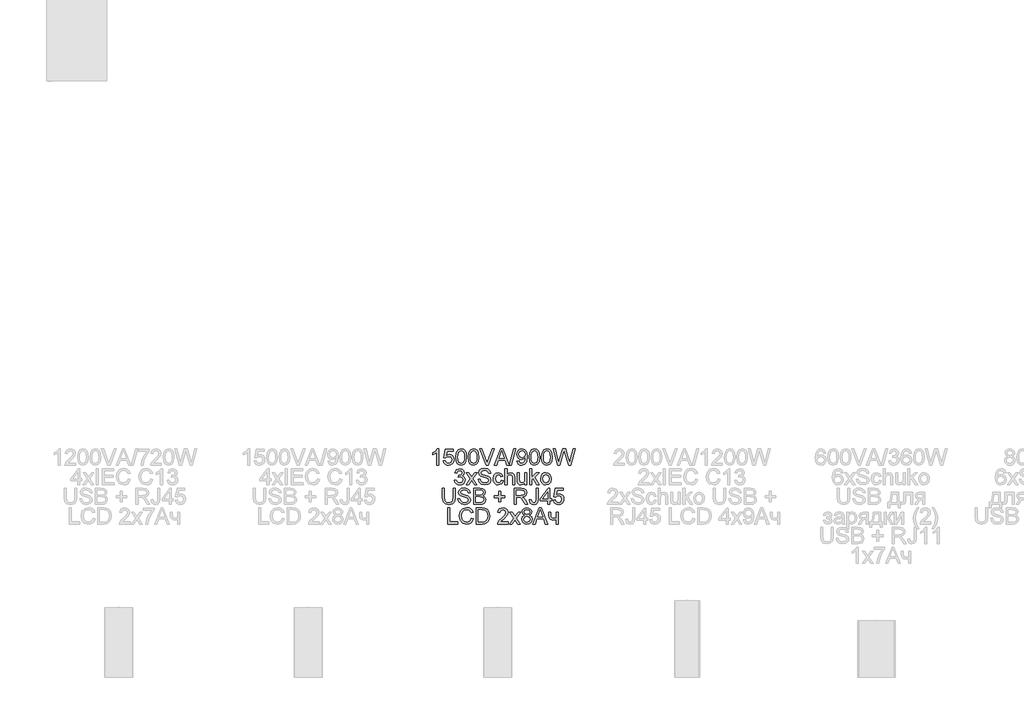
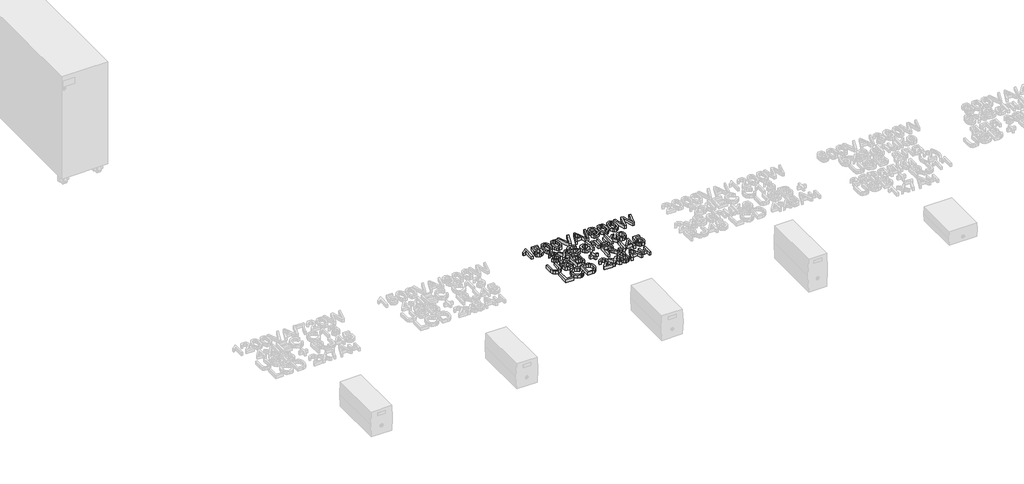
# One storey, part 43 of 74: 1 proxy.
"""IFC4 building model written with IfcOpenShell, lengths in millimetres."""

from ifc_helpers import new_model, si_unit, origin, origin_with_axes, place, context, project, spatial, polyline, outline, extrude, element, save

model = new_model("IFC4")

# Units and contexts
model_context = context("Model", 3, world=origin())
ifc_project = project(units=[si_unit("LENGTHUNIT", "METRE", prefix="MILLI")], contexts=[model_context])

# Site, building, storey
site = spatial("IfcSite", under=ifc_project)
building = spatial("IfcBuilding", under=site)
storey = spatial("IfcBuildingStorey", under=building, Name="Этаж 01", Elevation=0.0)

# Proxy
placement = place(None, origin())
element("IfcBuildingElementProxy", 1, Name="80 мм Arial", ObjectType="80 мм Arial", at=placement, inside=storey, context=model_context, shape_type="SweptSolid", body=[
    extrude(outline(polyline([(7651.7614359, -11026.633326), (7641.7158049, -11026.633326), (7641.7158049, -10964.0050951), (7632.1999239, -10970.783934), (7621.6245428, -10975.8558004), (7621.6245428, -10966.3595399), (7636.3496328, -10956.9613812), (7645.2867128, -10946.2682778), (7651.7614359, -10946.2682778), (7651.7614359, -11026.633326)])), origin_with_axes(), (0.0, 0.0, 1.0), 20.0),
    extrude(outline(polyline([(7675.6198095, -11005.2863601), (7685.6654406, -11004.0306562), (7690.7274968, -11014.380403), (7701.2243964, -11017.8433988), (7713.8206759, -11013.0265972), (7718.3137414, -11000.2439242), (7714.1051713, -10988.3147373), (7701.3813594, -10983.9393941), (7692.5620017, -10985.6856074), (7686.9211444, -10990.2179135), (7676.8755134, -10988.9622097), (7685.6654406, -10947.5239817), (7724.5922607, -10947.5239817), (7724.5922607, -10957.5696127), (7693.788275, -10957.5696127), (7689.4914133, -10979.7013936), (7704.1870727, -10973.8937631), (7713.5729687, -10975.6939324), (7721.3647094, -10981.0944401), (7726.6107066, -10989.3251866), (7728.3593724, -10999.6160722), (7726.7848374, -11009.6617032), (7722.0612326, -11018.2554267), (7713.0162406, -11025.480629), (7701.1851557, -11027.8890298), (7691.3185606, -11026.3414729), (7683.4581486, -11021.6988021), (7678.0699036, -11014.5005778), (7675.6198095, -11005.2863601)])), origin_with_axes(), (0.0, 0.0, 1.0), 20.0),
    extrude(outline(polyline([(7737.1492995, -10987.0982742), (7740.1021657, -10963.9756645), (7748.8724724, -10950.643621), (7763.5190809, -10946.2682778), (7775.252064, -10948.8581671), (7783.3552781, -10956.323719), (7788.0641676, -10968.2136651), (7789.8888623, -10987.0982742), (7786.9654267, -11010.122782), (7778.2245505, -11023.4842561), (7763.5190809, -11027.8890298), (7753.0810424, -11025.9760435), (7745.1544117, -11020.2370843), (7739.1505776, -11006.6450709), (7737.1492995, -10987.0982742)]), holes=[polyline([(7747.1949305, -10987.0786538), (7748.3721529, -11002.8804118), (7751.9038201, -11012.0259582), (7763.5190809, -11017.8433988), (7775.1343418, -11012.0063378), (7778.6660089, -11002.8558863), (7779.8432313, -10987.0786538), (7778.7052497, -10971.6325151), (7775.2913048, -10962.4158449), (7770.042855, -10957.8393929), (7763.4013587, -10956.3139089), (7752.060783, -10961.6898911), (7748.4113937, -10971.4804572), (7747.1949305, -10987.0786538)])]), origin_with_axes(), (0.0, 0.0, 1.0), 20.0),
    extrude(outline(polyline([(7798.6787895, -10987.0982742), (7801.6316556, -10963.9756645), (7810.4019624, -10950.643621), (7825.0485709, -10946.2682778), (7836.781554, -10948.8581671), (7844.8847681, -10956.323719), (7849.5936576, -10968.2136651), (7851.4183523, -10987.0982742), (7848.4949167, -11010.122782), (7839.7540405, -11023.4842561), (7825.0485709, -11027.8890298), (7814.6105324, -11025.9760435), (7806.6839017, -11020.2370843), (7800.6800675, -11006.6450709), (7798.6787895, -10987.0982742)]), holes=[polyline([(7808.7244205, -10987.0786538), (7809.9016429, -11002.8804118), (7813.43331, -11012.0259582), (7825.0485709, -11017.8433988), (7836.6638318, -11012.0063378), (7840.1954989, -11002.8558863), (7841.3727213, -10987.0786538), (7840.2347397, -10971.6325151), (7836.8207947, -10962.4158449), (7831.5723449, -10957.8393929), (7824.9308487, -10956.3139089), (7813.590273, -10961.6898911), (7809.9408836, -10971.4804572), (7808.7244205, -10987.0786538)])]), origin_with_axes(), (0.0, 0.0, 1.0), 20.0),
    extrude(outline(polyline([(7887.7160425, -11026.633326), (7855.7348344, -10946.2682778), (7866.4867988, -10946.2682778), (7887.8926259, -11004.1679988), (7892.2287283, -11017.2155469), (7896.5059696, -11004.1679988), (7917.9706578, -10946.2682778), (7928.7226222, -10946.2682778), (7898.0952199, -11026.633326), (7887.7160425, -11026.633326)])), origin_with_axes(), (0.0, 0.0, 1.0), 20.0),
    extrude(outline(polyline([(7928.7030019, -11026.633326), (7960.7823118, -10946.2682778), (7969.3367945, -10946.2682778), (8001.4161045, -11026.633326), (7990.8014826, -11026.633326), (7981.5995277, -11001.5192484), (7948.4999583, -11001.5192484), (7939.3176237, -11026.633326), (7928.7030019, -11026.633326)]), holes=[polyline([(7952.1885884, -10991.4736174), (7977.9305179, -10991.4736174), (7970.6906002, -10971.7159017), (7965.0595532, -10956.3139089), (7960.056358, -10969.9893089), (7952.1885884, -10991.4736174)])]), origin_with_axes(), (0.0, 0.0, 1.0), 20.0),
    extrude(outline(polyline([(8003.3585214, -11026.633326), (8025.9611912, -10946.2682778), (8035.0258036, -10946.2682778), (8012.4231338, -11026.633326), (8003.3585214, -11026.633326)])), origin_with_axes(), (0.0, 0.0, 1.0), 20.0),
    extrude(outline(polyline([(8041.0296377, -11006.5420639), (8051.0752687, -11005.2863601), (8055.5879545, -11014.8709123), (8064.1424372, -11017.8433988), (8072.2750818, -11015.9304124), (8077.7884067, -11010.8193053), (8081.0748192, -11002.0882392), (8082.5267268, -10990.4337376), (8082.4678656, -10988.4717003), (8074.4333229, -10996.0844051), (8063.4164834, -10999.0078407), (8054.2562217, -10997.2223867), (8046.6312542, -10991.8660249), (8041.4882639, -10983.5911325), (8039.7739338, -10973.0500871), (8041.5716505, -10962.16078), (8046.9648006, -10953.6259177), (8055.0655621, -10948.1076878), (8064.9861132, -10946.2682778), (8079.2991754, -10950.4670377), (8089.1486027, -10962.4354653), (8092.5134967, -10984.9204128), (8089.1584129, -11009.3183467), (8079.1814532, -11023.1408996), (8063.6715482, -11027.8890298), (8055.0827299, -11026.4886257), (8048.2303146, -11022.2874133), (8041.0296377, -11006.5420639)]), holes=[polyline([(8082.4678656, -10972.8146426), (8078.1317632, -10960.7677335), (8066.6146042, -10956.3139089), (8054.5284544, -10961.1110901), (8049.8195649, -10973.5405964), (8054.2733895, -10984.6751581), (8066.339919, -10988.9622097), (8077.9257493, -10984.6751581), (8082.4678656, -10972.8146426)])]), origin_with_axes(), (0.0, 0.0, 1.0), 20.0),
    extrude(outline(polyline([(8101.3034238, -10987.0982742), (8104.2562899, -10963.9756645), (8113.0265967, -10950.643621), (8127.6732052, -10946.2682778), (8139.4061883, -10948.8581671), (8147.5094024, -10956.323719), (8152.2182919, -10968.2136651), (8154.0429866, -10987.0982742), (8151.119551, -11010.122782), (8142.3786748, -11023.4842561), (8127.6732052, -11027.8890298), (8117.2351667, -11025.9760435), (8109.308536, -11020.2370843), (8103.3047019, -11006.6450709), (8101.3034238, -10987.0982742)]), holes=[polyline([(8111.3490548, -10987.0786538), (8112.5262772, -11002.8804118), (8116.0579444, -11012.0259582), (8127.6732052, -11017.8433988), (8139.2884661, -11012.0063378), (8142.8201332, -11002.8558863), (8143.9973556, -10987.0786538), (8142.859374, -10971.6325151), (8139.4454291, -10962.4158449), (8134.1969793, -10957.8393929), (8127.555483, -10956.3139089), (8116.2149073, -10961.6898911), (8112.5655179, -10971.4804572), (8111.3490548, -10987.0786538)])]), origin_with_axes(), (0.0, 0.0, 1.0), 20.0),
    extrude(outline(polyline([(8162.8329138, -10987.0982742), (8165.7857799, -10963.9756645), (8174.5560867, -10950.643621), (8189.2026952, -10946.2682778), (8200.9356783, -10948.8581671), (8209.0388924, -10956.323719), (8213.7477819, -10968.2136651), (8215.5724766, -10987.0982742), (8212.649041, -11010.122782), (8203.9081648, -11023.4842561), (8189.2026952, -11027.8890298), (8178.7646567, -11025.9760435), (8170.838026, -11020.2370843), (8164.8341918, -11006.6450709), (8162.8329138, -10987.0982742)]), holes=[polyline([(8172.8785448, -10987.0786538), (8174.0557672, -11002.8804118), (8177.5874343, -11012.0259582), (8189.2026952, -11017.8433988), (8200.817956, -11012.0063378), (8204.3496232, -11002.8558863), (8205.5268456, -10987.0786538), (8204.3888639, -10971.6325151), (8200.974919, -10962.4158449), (8195.7264692, -10957.8393929), (8189.0849729, -10956.3139089), (8177.7443973, -10961.6898911), (8174.0950079, -10971.4804572), (8172.8785448, -10987.0786538)])]), origin_with_axes(), (0.0, 0.0, 1.0), 20.0),
    extrude(outline(polyline([(8242.5112488, -11026.633326), (8220.5952921, -10946.2682778), (8230.9548491, -10946.2682778), (8243.6688508, -10999.0863222), (8247.5929255, -11015.3908522), (8251.7916853, -11000.969878), (8267.7234282, -10946.2682778), (8282.6545321, -10946.2682778), (8294.2305523, -10985.9210518), (8302.843896, -11015.3908522), (8306.6502484, -10999.5572111), (8319.4819724, -10946.2682778), (8329.8415294, -10946.2682778), (8307.9059523, -11026.633326), (8297.1736082, -11026.633326), (8277.9064019, -10964.632947), (8275.2184107, -10955.9803625), (8272.1968733, -10966.3987806), (8254.6366394, -11026.633326), (8242.5112488, -11026.633326)])), origin_with_axes(), (0.0, 0.0, 1.0), 20.0),
    extrude(outline(polyline([(7730.2429282, -11102.8662143), (7740.2885592, -11101.6105105), (7745.8313146, -11112.1858915), (7756.2006818, -11115.4232531), (7768.4045538, -11110.9694284), (7772.93686, -11099.9427787), (7768.4437946, -11089.5537912), (7757.0247374, -11085.443323), (7749.9810235, -11086.5420639), (7751.0993848, -11076.4964329), (7752.7082554, -11076.6141552), (7764.1076921, -11073.7299603), (7769.1697484, -11064.8615517), (7765.5007386, -11057.0035923), (7756.0437188, -11053.8937631), (7746.4689767, -11057.0330228), (7741.5442631, -11066.4508019), (7731.4986321, -11065.195098), (7739.7195684, -11049.4399384), (7755.6905521, -11043.8481321), (7767.8061324, -11046.6047945), (7776.2821336, -11054.1390178), (7779.2153794, -11064.2729405), (7776.4292864, -11073.5337566), (7768.1887297, -11080.1850631), (7779.1368979, -11087.0521936), (7782.982491, -11100.1193621), (7781.0596945, -11109.9099283), (7775.2913048, -11118.0916238), (7766.5847642, -11123.624569), (7755.8475151, -11125.4688841), (7746.1354304, -11123.8943492), (7738.22842, -11119.1707444), (7732.7298105, -11111.945542), (7730.2429282, -11102.8662143)])), origin_with_axes(), (0.0, 0.0, 1.0), 20.0),
    extrude(outline(polyline([(7788.0053065, -11124.2131802), (7809.4699947, -11094.5471761), (7789.2610104, -11065.195098), (7801.3471602, -11065.195098), (7811.0984856, -11079.3217666), (7815.6504122, -11085.9926935), (7819.5941072, -11080.5382298), (7830.6992383, -11065.195098), (7842.7853882, -11065.195098), (7821.5561445, -11094.5471761), (7842.0005732, -11124.2131802), (7829.9144234, -11124.2131802), (7817.6124495, -11106.3782611), (7815.3561066, -11103.1212792), (7800.0914563, -11124.2131802), (7788.0053065, -11124.2131802)])), origin_with_axes(), (0.0, 0.0, 1.0), 20.0),
    extrude(outline(polyline([(7848.2790926, -11096.5876949), (7858.3247236, -11096.5876949), (7861.5620852, -11106.6431361), (7869.4690955, -11113.000137), (7881.5160046, -11115.4232531), (7892.0129042, -11113.5887482), (7898.7917431, -11108.5463123), (7901.0186554, -11101.8067142), (7899.3509237, -11095.538005), (7892.5230339, -11090.9762682), (7877.8960458, -11087.1404853), (7862.1506964, -11082.1863411), (7853.6060239, -11074.710979), (7850.7905004, -11064.7242091), (7854.2731166, -11053.3542029), (7864.44628, -11045.3294703), (7879.3381432, -11042.5924282), (7895.2306454, -11045.4570027), (7905.8256468, -11053.8741428), (7909.8085826, -11066.4508019), (7899.7629516, -11066.4508019), (7894.0730434, -11056.1304857), (7879.7305507, -11052.6380593), (7865.3488172, -11056.0912449), (7860.8361314, -11064.4299035), (7864.0342522, -11071.3951359), (7880.4368841, -11077.0065626), (7898.2129421, -11082.0489985), (7907.934837, -11090.1914533), (7911.0642865, -11101.5516493), (7907.463948, -11113.5691278), (7897.104391, -11122.3394346), (7881.9084121, -11125.4688841), (7863.9655809, -11122.0941799), (7852.6151951, -11111.9308267), (7848.2790926, -11096.5876949)])), origin_with_axes(), (0.0, 0.0, 1.0), 20.0),
    extrude(outline(polyline([(7962.5481454, -11102.8662143), (7972.5937764, -11104.1219182), (7969.7929682, -11113.0565456), (7964.5298031, -11119.8084065), (7948.5980602, -11125.4688841), (7937.9123145, -11123.4945841), (7929.5564881, -11117.571684), (7924.163338, -11107.9601537), (7922.3656213, -11094.9199632), (7925.4362097, -11078.2328359), (7934.7951277, -11067.510302), (7948.4607175, -11063.9393941), (7963.735178, -11068.8444874), (7971.3380725, -11082.7749523), (7961.2924415, -11084.0306562), (7956.6326029, -11076.5062431), (7948.539199, -11073.9850252), (7936.8945076, -11078.9489796), (7932.4112524, -11094.645278), (7936.7964057, -11110.4887293), (7948.2645138, -11115.4232531), (7957.7313438, -11112.3428545), (7962.5481454, -11102.8662143)])), origin_with_axes(), (0.0, 0.0, 1.0), 20.0),
    extrude(outline(polyline([(7981.3837036, -11124.2131802), (7981.3837036, -11043.8481321), (7991.4293346, -11043.8481321), (7991.4293346, -11073.396414), (7999.2627685, -11066.3036491), (8008.911087, -11063.9393941), (8020.1928015, -11066.5194732), (8027.0403117, -11073.6514788), (8029.1004509, -11086.8559899), (8029.1004509, -11124.2131802), (8019.0548199, -11124.2131802), (8019.0548199, -11087.8958697), (8015.8566991, -11077.3008682), (8006.7920867, -11073.9850252), (7998.5613402, -11076.2217477), (7993.0676357, -11082.284443), (7991.4293346, -11092.8598241), (7991.4293346, -11124.2131802), (7981.3837036, -11124.2131802)])), origin_with_axes(), (0.0, 0.0, 1.0), 20.0),
    extrude(outline(polyline([(8080.5843098, -11124.2131802), (8080.5843098, -11114.0694474), (8072.7165402, -11122.6190249), (8062.4550851, -11125.4688841), (8053.0078755, -11123.4676061), (8046.4939116, -11118.4447906), (8043.5018047, -11111.0479099), (8042.9131935, -11101.7086123), (8042.9131935, -11065.195098), (8052.9588245, -11065.195098), (8052.9588245, -11096.9801024), (8053.5670561, -11107.2219372), (8057.5401817, -11113.2355815), (8065.025354, -11115.4232531), (8073.4130635, -11113.1865306), (8078.9558189, -11107.0944047), (8080.5843098, -11095.9009819), (8080.5843098, -11065.195098), (8090.6299408, -11065.195098), (8090.6299408, -11124.2131802), (8080.5843098, -11124.2131802)])), origin_with_axes(), (0.0, 0.0, 1.0), 20.0),
    extrude(outline(polyline([(8104.4426835, -11124.2131802), (8104.4426835, -11043.8481321), (8114.4883145, -11043.8481321), (8114.4883145, -11087.0325733), (8137.0125028, -11065.195098), (8150.9037269, -11065.195098), (8128.1048534, -11087.3072585), (8152.1594308, -11124.2131802), (8140.4264477, -11124.2131802), (8120.9041765, -11094.2921113), (8114.4883145, -11100.5117696), (8114.4883145, -11124.2131802), (8104.4426835, -11124.2131802)])), origin_with_axes(), (0.0, 0.0, 1.0), 20.0),
    extrude(outline(polyline([(8158.4379502, -11094.7041391), (8160.6109065, -11080.4744636), (8167.1297755, -11070.4729784), (8175.1839386, -11065.5727902), (8184.827352, -11063.9393941), (8195.3806602, -11065.9284095), (8203.8100629, -11071.8954554), (8209.3356505, -11081.3696431), (8211.177513, -11093.8800835), (8207.9205311, -11111.7542433), (8198.4340807, -11121.8685457), (8184.827352, -11125.4688841), (8174.1465114, -11123.4872264), (8165.7269188, -11117.5422534), (8160.2601923, -11107.8694095), (8158.4379502, -11094.7041391)]), holes=[polyline([(8168.4835812, -11094.6845188), (8173.1336096, -11110.2532848), (8184.827352, -11115.4232531), (8196.4818536, -11110.2238542), (8201.131882, -11094.3705928), (8196.452423, -11079.1549935), (8184.827352, -11073.9850252), (8173.1336096, -11079.1353731), (8168.4835812, -11094.6845188)])]), origin_with_axes(), (0.0, 0.0, 1.0), 20.0),
    extrude(outline(polyline([(7723.3365569, -11141.4279864), (7733.3821879, -11141.4279864), (7733.3821879, -11187.790928), (7730.654956, -11207.0090834), (7720.8251491, -11218.5851035), (7702.1857947, -11223.0487384), (7683.8309357, -11219.1639045), (7673.647962, -11207.9116206), (7670.596994, -11187.790928), (7670.596994, -11141.4279864), (7680.6426251, -11141.4279864), (7680.6426251, -11187.4377613), (7682.6242827, -11202.7514624), (7689.4325522, -11210.3347366), (7701.2440168, -11213.0031074), (7711.4613261, -11211.6836373), (7718.2548802, -11207.725227), (7722.0661377, -11200.0144204), (7723.3365569, -11187.4377613), (7723.3365569, -11141.4279864)])), origin_with_axes(), (0.0, 0.0, 1.0), 20.0),
    extrude(outline(polyline([(7747.1949305, -11194.1675492), (7757.2405615, -11194.1675492), (7760.4779231, -11204.2229904), (7768.3849334, -11210.5799913), (7780.4318425, -11213.0031074), (7790.9287421, -11211.1686025), (7797.707581, -11206.1261666), (7799.9344934, -11199.3865685), (7798.2667616, -11193.1178593), (7791.4388718, -11188.5561225), (7776.8118837, -11184.7203396), (7761.0665343, -11179.7661954), (7752.5218618, -11172.2908332), (7749.7063383, -11162.3040633), (7753.1889545, -11150.9340571), (7763.3621179, -11142.9093246), (7778.2539811, -11140.1722825), (7794.1464833, -11143.036857), (7804.7414848, -11151.453997), (7808.7244205, -11164.0306562), (7798.6787895, -11164.0306562), (7792.9888813, -11153.7103399), (7778.6463886, -11150.2179135), (7764.2646551, -11153.6710992), (7759.7519693, -11162.0097577), (7762.9500901, -11168.9749902), (7779.352722, -11174.5864169), (7797.12878, -11179.6288528), (7806.8506749, -11187.7713076), (7809.9801244, -11199.1315036), (7806.3797859, -11211.1489821), (7796.0202289, -11219.9192889), (7780.82425, -11223.0487384), (7762.8814188, -11219.6740342), (7751.531033, -11209.510681), (7747.1949305, -11194.1675492)])), origin_with_axes(), (0.0, 0.0, 1.0), 20.0),
    extrude(outline(polyline([(7825.0485709, -11221.7930345), (7825.0485709, -11141.4279864), (7855.715214, -11141.4279864), (7870.7346096, -11143.7922413), (7879.6030182, -11151.0615896), (7882.8109492, -11161.3426651), (7880.1131479, -11170.7310136), (7871.9608829, -11177.8433988), (7881.8593611, -11185.3383813), (7885.322357, -11197.836559), (7882.958102, -11208.6375744), (7877.1014207, -11216.3287606), (7868.3605445, -11220.4097982), (7855.4797695, -11221.7930345), (7825.0485709, -11221.7930345)]), holes=[polyline([(7835.0942019, -11174.0762872), (7853.4392507, -11174.0762872), (7864.1519744, -11173.2129908), (7870.597267, -11169.4949301), (7872.7653182, -11162.9515357), (7870.7444198, -11156.3983311), (7864.9564097, -11152.5233074), (7852.0462042, -11151.4736174), (7835.0942019, -11151.4736174), (7835.0942019, -11174.0762872)]), polyline([(7835.0942019, -11211.7474035), (7855.6955936, -11211.7474035), (7863.1513354, -11211.354996), (7869.4592853, -11209.1673244), (7873.6384248, -11204.7036896), (7875.276726, -11197.9346609), (7873.3539294, -11190.1257524), (7867.124461, -11185.4659138), (7854.714575, -11184.1219182), (7835.0942019, -11184.1219182), (7835.0942019, -11211.7474035)])]), origin_with_axes(), (0.0, 0.0, 1.0), 20.0),
    extrude(outline(polyline([(7949.3632547, -11209.2359957), (7949.3632547, -11187.8890298), (7928.0162888, -11187.8890298), (7928.0162888, -11177.8433988), (7949.3632547, -11177.8433988), (7949.3632547, -11156.4964329), (7959.4088857, -11156.4964329), (7959.4088857, -11177.8433988), (7980.7558516, -11177.8433988), (7980.7558516, -11187.8890298), (7959.4088857, -11187.8890298), (7959.4088857, -11209.2359957), (7949.3632547, -11209.2359957)])), origin_with_axes(), (0.0, 0.0, 1.0), 20.0),
    extrude(outline(polyline([(8027.2168951, -11221.7930345), (8027.2168951, -11141.4279864), (8061.8468535, -11141.4279864), (8077.9257493, -11143.5960376), (8086.7156764, -11151.2676035), (8090.0020889, -11163.4224246), (8084.5574354, -11177.9022599), (8067.7329655, -11185.3776221), (8073.442494, -11189.6744838), (8081.5849489, -11200.0144204), (8094.9856637, -11221.7930345), (8083.3115417, -11221.7930345), (8072.8538828, -11205.1353378), (8065.3000392, -11194.1086881), (8059.9927283, -11188.8994791), (8055.2151674, -11186.9864927), (8049.3879166, -11186.633326), (8037.2625261, -11186.633326), (8037.2625261, -11221.7930345), (8027.2168951, -11221.7930345)]), holes=[polyline([(8037.2625261, -11176.5876949), (8059.7474736, -11176.5876949), (8071.2155817, -11175.1652179), (8077.7295456, -11170.6132913), (8079.9564579, -11163.7952117), (8075.7086471, -11154.9464234), (8062.2785018, -11151.4736174), (8037.2625261, -11151.4736174), (8037.2625261, -11176.5876949)])]), origin_with_axes(), (0.0, 0.0, 1.0), 20.0),
    extrude(outline(polyline([(8102.5591277, -11199.2296055), (8112.6047587, -11197.9346609), (8116.038324, -11209.8049866), (8124.5143252, -11213.0031074), (8131.3912659, -11211.1882229), (8135.3742016, -11206.2438889), (8136.4631324, -11196.2865495), (8136.4631324, -11141.4279864), (8146.5087634, -11141.4279864), (8146.5087634, -11196.1099662), (8144.0856473, -11211.7179729), (8136.394461, -11220.1449232), (8124.0434362, -11223.0487384), (8114.7580946, -11221.5502324), (8107.9351099, -11217.0547144), (8103.7952112, -11209.6014252), (8102.5591277, -11199.2296055)])), origin_with_axes(), (0.0, 0.0, 1.0), 20.0),
    extrude(outline(polyline([(8192.9698068, -11221.7930345), (8192.9698068, -11202.9574764), (8156.5543944, -11202.9574764), (8156.5543944, -11192.9118453), (8195.4812146, -11142.6836903), (8203.0154378, -11142.6836903), (8203.0154378, -11192.9118453), (8213.0610688, -11192.9118453), (8213.0610688, -11202.9574764), (8203.0154378, -11202.9574764), (8203.0154378, -11221.7930345), (8192.9698068, -11221.7930345)]), holes=[polyline([(8192.9698068, -11192.9118453), (8192.9698068, -11161.8724151), (8168.9152294, -11192.9118453), (8192.9698068, -11192.9118453)])]), origin_with_axes(), (0.0, 0.0, 1.0), 20.0),
    extrude(outline(polyline([(8221.850996, -11200.4460686), (8231.896627, -11199.1903647), (8236.9586833, -11209.5401115), (8247.4555828, -11213.0031074), (8260.0518624, -11208.1863058), (8264.5449278, -11195.4036327), (8260.3363578, -11183.4744459), (8247.6125458, -11179.0991027), (8238.7931881, -11180.8453159), (8233.1523309, -11185.3776221), (8223.1066999, -11184.1219182), (8231.896627, -11142.6836903), (8270.8234472, -11142.6836903), (8270.8234472, -11152.7293213), (8240.0194614, -11152.7293213), (8235.7225997, -11174.8611021), (8250.4182592, -11169.0534717), (8259.8041552, -11170.8536409), (8267.5958958, -11176.2541486), (8272.8418931, -11184.4848951), (8274.5905588, -11194.7757808), (8273.0160239, -11204.8214118), (8268.2924191, -11213.4151352), (8259.2474271, -11220.6403376), (8247.4163421, -11223.0487384), (8237.549747, -11221.5011815), (8229.689335, -11216.8585107), (8224.3010901, -11209.6602863), (8221.850996, -11200.4460686)])), origin_with_axes(), (0.0, 0.0, 1.0), 20.0),
    extrude(outline(polyline([(7696.3389235, -11319.3728888), (7696.3389235, -11239.0078407), (7706.3845545, -11239.0078407), (7706.3845545, -11309.3272578), (7746.5670786, -11309.3272578), (7746.5670786, -11319.3728888), (7696.3389235, -11319.3728888)])), origin_with_axes(), (0.0, 0.0, 1.0), 20.0),
    extrude(outline(polyline([(7814.3750879, -11290.8056256), (7824.420719, -11293.3955148), (7819.7854058, -11305.1015199), (7812.5111525, -11313.65355), (7802.9560308, -11318.884832), (7791.4781126, -11320.6285927), (7770.572605, -11315.3507123), (7758.3098719, -11300.0664417), (7754.1013018, -11278.5821332), (7758.8592423, -11256.7446579), (7772.3874896, -11242.5885588), (7791.6939367, -11237.7521368), (7802.7083236, -11239.3168615), (7811.8146293, -11244.0110358), (7818.7283582, -11251.5452591), (7823.1650151, -11261.6301308), (7813.1193841, -11264.0238163), (7804.8788274, -11251.6727915), (7791.3015292, -11247.7977678), (7775.5856104, -11252.0946295), (7766.7073915, -11263.6314089), (7764.1469329, -11278.5625128), (7767.1782805, -11295.8676818), (7776.61568, -11306.9237621), (7790.4774735, -11310.5829617), (7805.8500358, -11305.5993869), (7814.3750879, -11290.8056256)])), origin_with_axes(), (0.0, 0.0, 1.0), 20.0),
    extrude(outline(polyline([(7838.2334616, -11319.3728888), (7838.2334616, -11239.0078407), (7865.9570488, -11239.0078407), (7880.2995415, -11240.1654427), (7892.1110061, -11245.914212), (7901.626887, -11259.6484731), (7904.7857671, -11278.7587165), (7902.6471464, -11294.9749549), (7897.1534419, -11306.6785074), (7889.8154224, -11313.967476), (7880.2112498, -11317.9994627), (7867.2912341, -11319.3728888), (7838.2334616, -11319.3728888)]), holes=[polyline([(7848.2790926, -11309.3272578), (7866.0551506, -11309.3272578), (7878.9849765, -11307.8753502), (7886.4407182, -11303.7746922), (7892.5524645, -11293.7977325), (7894.7401361, -11278.6017535), (7890.4530845, -11259.5699917), (7880.0248562, -11250.6623423), (7865.7804654, -11249.0534717), (7848.2790926, -11249.0534717), (7848.2790926, -11309.3272578)])]), origin_with_axes(), (0.0, 0.0, 1.0), 20.0),
    extrude(outline(polyline([(7997.707854, -11309.3272578), (7997.707854, -11319.3728888), (7944.9682911, -11319.3728888), (7946.0474117, -11312.4468971), (7952.1493477, -11301.7832243), (7964.7260068, -11290.1385329), (7982.0704166, -11273.4023547), (7986.4065191, -11262.0225383), (7982.3156713, -11252.8107731), (7971.6323781, -11249.0534717), (7960.4978164, -11252.7224814), (7956.269626, -11262.8662143), (7946.223995, -11261.6105105), (7948.6593738, -11251.8935207), (7953.9249914, -11244.7958507), (7961.7461627, -11240.4548432), (7971.8482022, -11239.0078407), (7982.0238182, -11240.6167113), (7989.8302742, -11245.443323), (7994.7966811, -11252.6538101), (7996.4521501, -11261.4143067), (7994.6666961, -11270.9399979), (7988.7315333, -11280.7894251), (7974.3399896, -11294.5531168), (7962.7835899, -11304.2161506), (7958.2512837, -11309.3272578), (7997.707854, -11309.3272578)])), origin_with_axes(), (0.0, 0.0, 1.0), 20.0),
    extrude(outline(polyline([(8003.9863733, -11319.3728888), (8025.4510615, -11289.7068847), (8005.2420772, -11260.3548066), (8017.328227, -11260.3548066), (8027.0795525, -11274.4814752), (8031.631479, -11281.152402), (8035.575174, -11275.6979383), (8046.6803052, -11260.3548066), (8058.766455, -11260.3548066), (8037.5372113, -11289.7068847), (8057.98164, -11319.3728888), (8045.8954902, -11319.3728888), (8033.5935163, -11301.5379697), (8031.3371734, -11298.2809877), (8016.0725232, -11319.3728888), (8003.9863733, -11319.3728888)])), origin_with_axes(), (0.0, 0.0, 1.0), 20.0),
    extrude(outline(polyline([(8078.8969577, -11275.1093271), (8069.7440537, -11268.8700485), (8066.7715672, -11259.1579638), (8068.390248, -11251.3049095), (8073.2462903, -11244.8154711), (8080.7952288, -11240.4597483), (8090.4925982, -11239.0078407), (8100.2488287, -11240.4940839), (8107.8958692, -11244.9528137), (8112.8402032, -11251.5452591), (8114.4883145, -11259.432649), (8111.5550687, -11268.8994791), (8102.6572295, -11275.1093271), (8113.3405227, -11282.9869069), (8116.9997223, -11295.9854041), (8115.1848378, -11305.5895767), (8109.7401842, -11313.5260176), (8101.3328544, -11318.8529489), (8090.6299408, -11320.6285927), (8079.9270273, -11318.8455913), (8071.5196975, -11313.4965871), (8066.0750439, -11305.4841172), (8064.2601594, -11295.7107189), (8068.0665118, -11282.4081059), (8078.8969577, -11275.1093271)]), holes=[polyline([(8076.8171982, -11259.4522694), (8080.3782959, -11267.3396594), (8090.7476631, -11270.4004376), (8100.9110163, -11267.3592798), (8104.4426835, -11259.903538), (8100.7932941, -11252.1829212), (8090.6299408, -11249.0534717), (8080.437157, -11252.1142499), (8076.8171982, -11259.4522694)]), polyline([(8074.3057904, -11295.3575521), (8075.9833323, -11302.921206), (8081.9184952, -11308.5816836), (8090.7084223, -11310.5829617), (8102.6768499, -11306.3743916), (8106.9540912, -11295.6714781), (8102.5395073, -11284.7625507), (8090.374876, -11280.4460686), (8078.5536012, -11284.7036896), (8074.3057904, -11295.3575521)])]), origin_with_axes(), (0.0, 0.0, 1.0), 20.0),
    extrude(outline(polyline([(8120.1978431, -11319.3728888), (8152.2771531, -11239.0078407), (8160.8316357, -11239.0078407), (8192.9109457, -11319.3728888), (8182.2963239, -11319.3728888), (8173.0943689, -11294.2588113), (8139.9947995, -11294.2588113), (8130.8124649, -11319.3728888), (8120.1978431, -11319.3728888)]), holes=[polyline([(8143.6834296, -11284.2131802), (8169.4253591, -11284.2131802), (8162.1854415, -11264.4554645), (8156.5543944, -11249.0534717), (8151.5511992, -11262.7288717), (8143.6834296, -11284.2131802)])]), origin_with_axes(), (0.0, 0.0, 1.0), 20.0),
    extrude(outline(polyline([(8198.6204743, -11260.3548066), (8208.6661053, -11260.3548066), (8208.6661053, -11271.6757618), (8209.4803508, -11282.2903837), (8213.3946152, -11288.039153), (8221.1642829, -11290.4916996), (8235.0358867, -11287.4505418), (8235.0358867, -11260.3548066), (8245.0815177, -11260.3548066), (8245.0815177, -11319.3728888), (8235.0358867, -11319.3728888), (8235.0358867, -11297.084145), (8218.4762918, -11300.5373306), (8207.0866652, -11296.9369922), (8200.3863078, -11288.1176345), (8198.6204743, -11276.6397162), (8198.6204743, -11260.3548066)])), origin_with_axes(), (0.0, 0.0, 1.0), 20.0),
])

save(model, "model.ifc")
